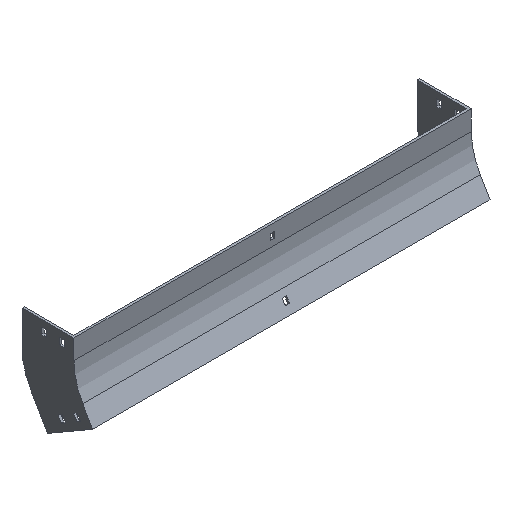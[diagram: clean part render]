
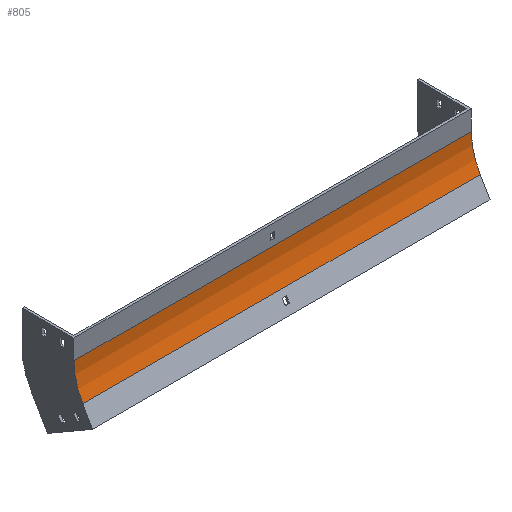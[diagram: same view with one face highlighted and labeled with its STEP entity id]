
A CAD part, isometric view. The second image highlights one B-rep face of the part: STEP entity #805.
In plain terms, the highlighted cylindrical face has radius 100 mm (diameter 200 mm), a partial arc.
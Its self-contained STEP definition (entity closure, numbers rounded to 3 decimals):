
#132 = ORIENTED_EDGE ( 'NONE', *, *, #1806, .T. ) ;
#201 = DIRECTION ( 'NONE',  ( -1., 0., 0. ) ) ;
#314 = CIRCLE ( 'NONE', #1256, 100. ) ;
#339 = ORIENTED_EDGE ( 'NONE', *, *, #844, .F. ) ;
#353 = FACE_OUTER_BOUND ( 'NONE', #1066, .T. ) ;
#370 = EDGE_CURVE ( 'NONE', #442, #1936, #314, .T. ) ;
#442 = VERTEX_POINT ( 'NONE', #1175 ) ;
#528 = CARTESIAN_POINT ( 'NONE',  ( 302., 0., -30. ) ) ;
#641 = ORIENTED_EDGE ( 'NONE', *, *, #818, .T. ) ;
#644 = CIRCLE ( 'NONE', #654, 100. ) ;
#654 = AXIS2_PLACEMENT_3D ( 'NONE', #1424, #812, #1111 ) ;
#753 = DIRECTION ( 'NONE',  ( 0., 0., 1. ) ) ;
#805 = ADVANCED_FACE ( 'NONE', ( #353 ), #1542, .F. ) ;
#812 = DIRECTION ( 'NONE',  ( -1., 0., 0. ) ) ;
#818 = EDGE_CURVE ( 'NONE', #442, #888, #1120, .T. ) ;
#844 = EDGE_CURVE ( 'NONE', #1936, #1604, #1701, .T. ) ;
#878 = VECTOR ( 'NONE', #1402, 1000. ) ;
#888 = VERTEX_POINT ( 'NONE', #1680 ) ;
#948 = CARTESIAN_POINT ( 'NONE',  ( 302., -13.397, -80. ) ) ;
#1040 = DIRECTION ( 'NONE',  ( -1., 0., 0. ) ) ;
#1066 = EDGE_LOOP ( 'NONE', ( #132, #339, #1330, #641 ) ) ;
#1111 = DIRECTION ( 'NONE',  ( 0., 0., 1. ) ) ;
#1112 = CARTESIAN_POINT ( 'NONE',  ( 302., -100., -30. ) ) ;
#1120 = LINE ( 'NONE', #528, #1661 ) ;
#1157 = CARTESIAN_POINT ( 'NONE',  ( -302., -13.397, -80. ) ) ;
#1175 = CARTESIAN_POINT ( 'NONE',  ( 302., 0., -30. ) ) ;
#1256 = AXIS2_PLACEMENT_3D ( 'NONE', #1621, #1040, #1304 ) ;
#1304 = DIRECTION ( 'NONE',  ( 0., 0., 1. ) ) ;
#1330 = ORIENTED_EDGE ( 'NONE', *, *, #370, .F. ) ;
#1393 = DIRECTION ( 'NONE',  ( -1., 0., 0. ) ) ;
#1402 = DIRECTION ( 'NONE',  ( -1., 0., 0. ) ) ;
#1424 = CARTESIAN_POINT ( 'NONE',  ( -302., -100., -30. ) ) ;
#1529 = CARTESIAN_POINT ( 'NONE',  ( 302., -13.397, -80. ) ) ;
#1542 = CYLINDRICAL_SURFACE ( 'NONE', #1728, 100. ) ;
#1604 = VERTEX_POINT ( 'NONE', #1157 ) ;
#1621 = CARTESIAN_POINT ( 'NONE',  ( 302., -100., -30. ) ) ;
#1661 = VECTOR ( 'NONE', #1393, 1000. ) ;
#1680 = CARTESIAN_POINT ( 'NONE',  ( -302., 0., -30. ) ) ;
#1701 = LINE ( 'NONE', #1529, #878 ) ;
#1728 = AXIS2_PLACEMENT_3D ( 'NONE', #1112, #201, #753 ) ;
#1806 = EDGE_CURVE ( 'NONE', #888, #1604, #644, .T. ) ;
#1936 = VERTEX_POINT ( 'NONE', #948 ) ;
